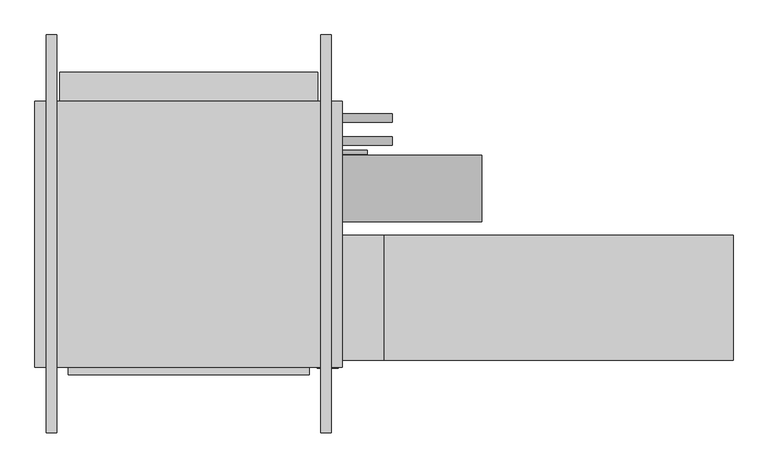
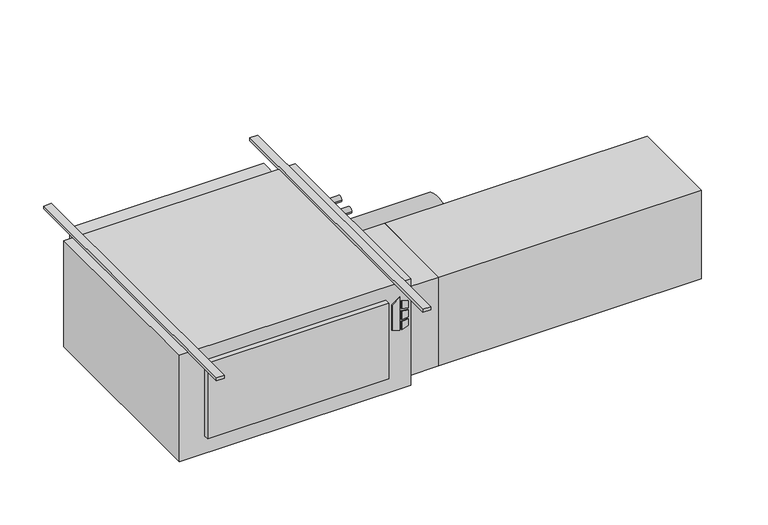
"""IFC4 building model written with IfcOpenShell, lengths in millimetres: proxy geometry."""

from ifc_helpers import new_model, si_unit, point, frame, frame_2d, origin, origin_with_axes, place, context, project, spatial, polyline, circle_curve, trimmed, segment, composite_curve, outline, extrude, source, transform, mapped, element, save


def mechanical_equipment_b924c97b(model_context):
    return source(origin(), model_context, "Body", "SweptSolid", [
        extrude(outline(polyline([(-193.2519297, 544.5868862), (-203.2, 576.7602728), (-61.0290756, 576.7602728), (-84.0510817, 544.5868862), (-193.2519297, 544.5868862)])), frame((0.0, -647.7, 0.0), z_axis=(0.0, 1.0, 0.0), x_axis=(0.0, 0.0, 1.0)), (0.0, 0.0, 1.0), 3.175),
        extrude(outline(polyline([(-114.2526443, 583.5186058), (-117.4550368, 609.6), (-88.2261958, 609.6), (-80.1617807, 583.5186058), (-114.2526443, 583.5186058)])), frame((0.0, -647.7, 0.0), z_axis=(0.0, 1.0, 0.0), x_axis=(0.0, 0.0, 1.0)), (0.0, 0.0, 1.0), 3.175),
        extrude(outline(polyline([(-166.1161712, 609.6), (-169.7816721, 583.5186058), (-203.2, 583.5186058), (-194.5657628, 609.6), (-166.1161712, 609.6)])), frame((0.0, -647.7, 0.0), z_axis=(0.0, 1.0, 0.0), x_axis=(0.0, 0.0, 1.0)), (0.0, 0.0, 1.0), 3.175),
        extrude(outline(polyline([(-126.8010097, 609.6), (-124.5191834, 583.5186058), (-160.4567319, 583.5186058), (-157.7154669, 609.6), (-126.8010097, 609.6)])), frame((0.0, -647.7, 0.0), z_axis=(0.0, 1.0, 0.0), x_axis=(0.0, 0.0, 1.0)), (0.0, 0.0, 1.0), 3.175),
        extrude(outline(polyline([(520.7, -666.877), (-215.9, -666.877), (-215.9, -644.525), (520.7, -644.525), (520.7, -666.877)])), frame((0.0, 0.0, -381.0), z_axis=(0.0, 0.0, 1.0), x_axis=(1.0, 0.0, 0.0)), (0.0, 0.0, 1.0), 323.85),
        extrude(outline(polyline([(1816.1, -241.3), (1816.1, -622.3), (749.3, -622.3), (749.3, -241.3), (1816.1, -241.3)])), frame((0.0, 0.0, -431.8), z_axis=(0.0, 0.0, 1.0), x_axis=(1.0, 0.0, 0.0)), (0.0, 0.0, 1.0), 381.0),
        extrude(outline(polyline([(749.3, -241.3), (749.3, -622.3), (622.3, -622.3), (622.3, -241.3), (749.3, -241.3)])), frame((0.0, 0.0, -431.8), z_axis=(0.0, 0.0, 1.0), x_axis=(1.0, 0.0, 0.0)), (0.0, 0.0, 1.0), 381.0),
        extrude(outline(composite_curve([segment(trimmed(circle_curve(frame_2d((117.475, -171.45)), 12.7), [point((130.175, -171.45))], [point((104.775, -171.45))], False, "CARTESIAN"), True, "CONTINUOUS"), segment(trimmed(circle_curve(frame_2d((117.475, -171.45)), 12.7), [point((104.775, -171.45))], [point((130.175, -171.45))], False, "CARTESIAN"), True, "CONTINUOUS")], self_intersect=False)), frame((622.3, 0.0, 0.0), z_axis=(1.0, 0.0, 0.0), x_axis=(0.0, 1.0, 0.0)), (0.0, 0.0, 1.0), 152.4),
        extrude(outline(composite_curve([segment(trimmed(circle_curve(frame_2d((47.625, -177.8)), 12.7), [point((60.325, -177.8))], [point((34.925, -177.8))], False, "CARTESIAN"), True, "CONTINUOUS"), segment(trimmed(circle_curve(frame_2d((47.625, -177.8)), 12.7), [point((34.925, -177.8))], [point((60.325, -177.8))], False, "CARTESIAN"), True, "CONTINUOUS")], self_intersect=False)), frame((622.3, 0.0, 0.0), z_axis=(1.0, 0.0, 0.0), x_axis=(0.0, 1.0, 0.0)), (0.0, 0.0, 1.0), 152.4),
        extrude(outline(composite_curve([segment(trimmed(circle_curve(frame_2d((-98.4896516, -228.6360165)), 101.6), [point((3.1103484, -228.6360165))], [point((-200.0896516, -228.6360165))], False, "CARTESIAN"), True, "CONTINUOUS"), segment(trimmed(circle_curve(frame_2d((-98.4896516, -228.6360165)), 101.6), [point((-200.0896516, -228.6360165))], [point((3.1103484, -228.6360165))], False, "CARTESIAN"), True, "CONTINUOUS")], self_intersect=False)), frame((622.3, 0.0, 0.0), z_axis=(1.0, 0.0, 0.0), x_axis=(0.0, 1.0, 0.0)), (0.0, 0.0, 1.0), 425.45),
        extrude(outline(composite_curve([segment(trimmed(circle_curve(frame_2d((12.7, -409.575)), 6.35), [point((19.05, -409.575))], [point((6.35, -409.575))], False, "CARTESIAN"), True, "CONTINUOUS"), segment(trimmed(circle_curve(frame_2d((12.7, -409.575)), 6.35), [point((6.35, -409.575))], [point((19.05, -409.575))], False, "CARTESIAN"), True, "CONTINUOUS")], self_intersect=False)), frame((622.3, 0.0, 0.0), z_axis=(1.0, 0.0, 0.0), x_axis=(0.0, 1.0, 0.0)), (0.0, 0.0, 1.0), 76.2),
        extrude(outline(polyline([(622.3, 168.275), (622.3, -644.525), (-317.5, -644.525), (-317.5, 168.275), (622.3, 168.275)])), frame((0.0, 0.0, -457.2), z_axis=(0.0, 0.0, 1.0), x_axis=(1.0, 0.0, 0.0)), (0.0, 0.0, 1.0), 457.2),
        extrude(outline(polyline([(-241.3, 257.175), (546.1, 257.175), (546.1, 168.275), (-241.3, 168.275), (-241.3, 257.175)])), frame((0.0, 0.0, -381.0), z_axis=(0.0, 0.0, 1.0), x_axis=(1.0, 0.0, 0.0)), (0.0, 0.0, 1.0), 355.6),
        extrude(outline(polyline([(-250.825, 371.475), (-250.825, -844.677), (-282.575, -844.677), (-282.575, 371.475), (-250.825, 371.475)])), origin_with_axes(), (0.0, 0.0, 1.0), 12.7),
        extrude(outline(polyline([(587.375, 371.475), (587.375, -844.677), (555.625, -844.677), (555.625, 371.475), (587.375, 371.475)])), origin_with_axes(), (0.0, 0.0, 1.0), 12.7),
    ])


if __name__ == "__main__":
    model = new_model("IFC4")
    model_context = context("Model", 3, world=origin())
    ifc_project = project(units=[si_unit("LENGTHUNIT", "METRE", prefix="MILLI")], contexts=[model_context])
    site = spatial("IfcSite", under=ifc_project)
    building = spatial("IfcBuilding", under=site)
    placement = place(None, origin())
    mechanical_equipment_shape = mechanical_equipment_b924c97b(model_context)
    element("IfcBuildingElementProxy", 1, Name="High_Capacity_Horizontal_Cabinet_Fan_Coil_Unit_-_HTY_-_IEC_-_2-Pipe_WO-Attenuator_RH Side_2022 : Size 12 - 277v/60Hz/1Ph - 8/0 Coil - 8\" AirIn", ObjectType="High_Capacity_Horizontal_Cabinet_Fan_Coil_Unit_-_HTY_-_IEC_-_2-Pipe_WO-Attenuator_RH Side_2022 : Size 12 - 277v/60Hz/1Ph - 8/0 Coil - 8\" AirIn", at=placement, inside=building, context=model_context, shape_type="MappedRepresentation", body=[
        mapped(mechanical_equipment_shape, transform((0.0, 0.0, 0.0), x_axis=(1.0, 0.0, 0.0), y_axis=(0.0, 1.0, 0.0), z_axis=(0.0, 0.0, 1.0))),
    ])
    save(model, "model.ifc")
